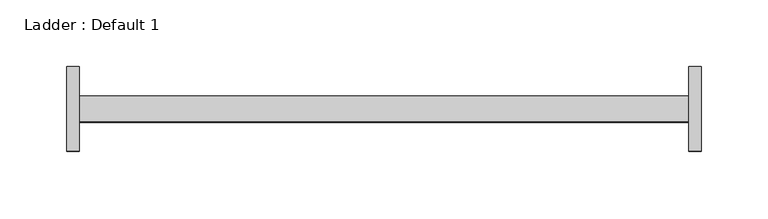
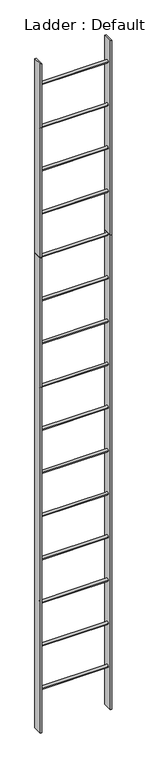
"""IFC4 building model written with IfcOpenShell, lengths in millimetres: proxy geometry, Ladder : Default 1."""

import ifcopenshell
import ifcopenshell.guid

model = None  # the IFC model being written
_history = None  # IfcOwnerHistory: only IFC2X3 demands one
_inside = {}  # id of a spatial element -> (the spatial element, [elements in it])
_under = {}  # id of a project, library or spatial element -> (it, [spatial elements below it])
_declared = {}  # id of a project -> (the project, [libraries it declares])
_typed = {}  # id of a type object -> (the type object, [elements of that type])
_made_of = {}  # id of a material, layer set ... -> (it, [elements and type objects made of it])


def new_model(schema):
    """Start an empty IFC model of exactly this schema.

    Asked for "IFC4X3", IfcOpenShell would pick the latest addendum, in which some entities
    have other attributes; the version numbers below select the first issue.
    IFC2X3 requires an IfcOwnerHistory on every rooted entity: one is made here for all.
    """
    global model, _history
    if schema == "IFC4X3":
        model = ifcopenshell.file(schema_version=(4, 3, 0, 0))
    else:
        model = ifcopenshell.file(schema=schema)
    _inside.clear()
    _under.clear()
    _declared.clear()
    _typed.clear()
    _made_of.clear()
    _history = None
    if model.schema == "IFC2X3":
        org = make("IfcOrganization", Name="unknown")
        user = make(
            "IfcPersonAndOrganization",
            ThePerson=make("IfcPerson", FamilyName="unknown"),
            TheOrganization=org,
        )
        app = make(
            "IfcApplication",
            ApplicationDeveloper=org,
            Version="unknown",
            ApplicationFullName="unknown",
            ApplicationIdentifier="unknown",
        )
        _history = make(
            "IfcOwnerHistory",
            OwningUser=user,
            OwningApplication=app,
            ChangeAction="ADDED",
            CreationDate=0,
        )
    return model


def make(cls, **values):
    """One entity of the class cls with the attributes given. An attribute that is None is left unset."""
    return model.create_entity(
        cls, **{name: value for name, value in values.items() if value is not None}
    )


def rooted(cls, **values):
    """An entity with a GlobalId (a new one), such as an element, a storey or a relation."""
    return make(cls, GlobalId=ifcopenshell.guid.new(), OwnerHistory=_history, **values)


def si_unit(unit_type, name, prefix=None):
    """IfcSIUnit, for example si_unit("LENGTHUNIT", "METRE", prefix="MILLI")."""
    return make("IfcSIUnit", UnitType=unit_type, Prefix=prefix, Name=name)


def assignment(units):
    """IfcUnitAssignment: the units of a project."""
    return None if units is None else make("IfcUnitAssignment", Units=units)


def point(xyz):
    """IfcCartesianPoint."""
    return None if xyz is None else make("IfcCartesianPoint", Coordinates=xyz)


def direction(xyz):
    """IfcDirection."""
    return None if xyz is None else make("IfcDirection", DirectionRatios=xyz)


def frame(location, z_axis=None, x_axis=None):
    """IfcAxis2Placement3D, a coordinate frame: its origin and axes. An axis left out is left unset."""
    return make(
        "IfcAxis2Placement3D",
        Location=point(location),
        Axis=direction(z_axis),
        RefDirection=direction(x_axis),
    )


def frame_2d(location, x_axis=None):
    """IfcAxis2Placement2D, a coordinate frame in the plane: its origin and x axis."""
    return make(
        "IfcAxis2Placement2D", Location=point(location), RefDirection=direction(x_axis)
    )


def origin():
    """The frame at (0, 0, 0) with its axes left unset."""
    return frame((0.0, 0.0, 0.0))


def origin_with_axes():
    """The frame at (0, 0, 0) with the z axis (0, 0, 1) and the x axis (1, 0, 0) written out."""
    return frame((0.0, 0.0, 0.0), z_axis=(0.0, 0.0, 1.0), x_axis=(1.0, 0.0, 0.0))


def place(relative_to, where):
    """IfcLocalPlacement: puts the frame where relative to a parent placement (None: the world)."""
    return make(
        "IfcLocalPlacement", PlacementRelTo=relative_to, RelativePlacement=where
    )


def context(
    kind, dimensions, precision=None, world=None, true_north=None, identifier=None
):
    """IfcGeometricRepresentationContext, for example the 3D "Model" context."""
    return make(
        "IfcGeometricRepresentationContext",
        ContextIdentifier=identifier,
        ContextType=kind,
        CoordinateSpaceDimension=dimensions,
        Precision=precision,
        WorldCoordinateSystem=world,
        TrueNorth=true_north,
    )


def project(units=None, contexts=None):
    """IfcProject with its units and contexts."""
    return rooted(
        "IfcProject",
        Name="project",
        RepresentationContexts=contexts,
        UnitsInContext=assignment(units),
    )


def spatial(cls, under=None, at=None, **own):
    """A site, building, storey or space (cls), placed at a placement, below another one or the project."""
    s = rooted(cls, ObjectPlacement=at, **own)
    if under is not None:
        _under.setdefault(under.id(), (under, []))[1].append(s)
    return s


def polyline(points):
    """IfcPolyline through the points."""
    return make("IfcPolyline", Points=[point(p) for p in points])


def circle_curve(where, radius):
    """IfcCircle in the frame where."""
    return make("IfcCircle", Position=where, Radius=radius)


def trimmed(basis, trim1, trim2, sense, master):
    """IfcTrimmedCurve: the piece of a basis curve between two trims."""
    return make(
        "IfcTrimmedCurve",
        BasisCurve=basis,
        Trim1=trim1,
        Trim2=trim2,
        SenseAgreement=sense,
        MasterRepresentation=master,
    )


def segment(curve, same_sense, transition):
    """IfcCompositeCurveSegment."""
    return make(
        "IfcCompositeCurveSegment",
        Transition=transition,
        SameSense=same_sense,
        ParentCurve=curve,
    )


def composite_curve(segments, self_intersect=None):
    """IfcCompositeCurve: segments joined end to end."""
    return make("IfcCompositeCurve", Segments=segments, SelfIntersect=self_intersect)


def outline(outer, holes=None, kind="AREA"):
    """IfcArbitraryClosedProfileDef: a profile drawn as a closed curve; with holes, ...WithVoids."""
    if holes is None:
        return make("IfcArbitraryClosedProfileDef", ProfileType=kind, OuterCurve=outer)
    return make(
        "IfcArbitraryProfileDefWithVoids",
        ProfileType=kind,
        OuterCurve=outer,
        InnerCurves=holes,
    )


def extrude(swept, where, along, depth):
    """IfcExtrudedAreaSolid: the profile swept, set in the frame where, extruded along a direction by depth."""
    return make(
        "IfcExtrudedAreaSolid",
        SweptArea=swept,
        Position=where,
        ExtrudedDirection=direction(along),
        Depth=depth,
    )


def shape(context_of_items, identifier, shape_type, items):
    """IfcShapeRepresentation: the items that make up one representation, for example the "Body"."""
    return make(
        "IfcShapeRepresentation",
        ContextOfItems=context_of_items,
        RepresentationIdentifier=identifier,
        RepresentationType=shape_type,
        Items=items,
    )


def source(mapping_origin, context_of_items, identifier, shape_type, items):
    """IfcRepresentationMap: a shape defined once, which mapped items show again and again."""
    return make(
        "IfcRepresentationMap",
        MappingOrigin=mapping_origin,
        MappedRepresentation=shape(context_of_items, identifier, shape_type, items),
    )


def transform(
    local_origin,
    x_axis=None,
    y_axis=None,
    z_axis=None,
    scale=None,
    scale2=None,
    scale3=None,
    uniform=True,
):
    """IfcCartesianTransformationOperator3D, or its non-uniform kind. x_axis, y_axis, z_axis: its Axis1, 2, 3."""
    if uniform:
        return make(
            "IfcCartesianTransformationOperator3D",
            Axis1=direction(x_axis),
            Axis2=direction(y_axis),
            LocalOrigin=point(local_origin),
            Scale=scale,
            Axis3=direction(z_axis),
        )
    return make(
        "IfcCartesianTransformationOperator3DnonUniform",
        Axis1=direction(x_axis),
        Axis2=direction(y_axis),
        LocalOrigin=point(local_origin),
        Scale=scale,
        Axis3=direction(z_axis),
        Scale2=scale2,
        Scale3=scale3,
    )


def mapped(mapping_source, mapping_target):
    """IfcMappedItem: shows the shape of a source again, moved by a transform."""
    return make(
        "IfcMappedItem", MappingSource=mapping_source, MappingTarget=mapping_target
    )


def made_of(thing, what):
    """Note that an element or type object is made of a material, layer set ...; save() writes the relation."""
    if what is not None:
        _made_of.setdefault(what.id(), (what, []))[1].append(thing)
    return thing


def element(
    cls,
    number,
    at=None,
    inside=None,
    cuts=None,
    type_object=None,
    material=None,
    context=None,
    identifier="Body",
    shape_type=None,
    held_by="IfcProductDefinitionShape",
    body=None,
    shapes=None,
    **own,
):
    """One element of the class cls, such as IfcWall. Its Tag is "e" and its number.

    at: its placement. inside: the storey or other place that contains it. cuts: it is an
    opening in that element (IfcRelVoidsElement). A single representation is given by context,
    identifier, shape_type and body (its items); several are given by shapes. held_by: the class
    of the entity that holds the representations. save() writes the other relations.
    """
    e = rooted(cls, Tag="e%d" % number, ObjectPlacement=at, **own)
    if body is not None:
        shapes = [shape(context, identifier, shape_type, body)]
    if shapes is not None:
        e.Representation = make(held_by, Representations=shapes)
    if inside is not None:
        _inside.setdefault(inside.id(), (inside, []))[1].append(e)
    if cuts is not None:
        rooted(
            "IfcRelVoidsElement", RelatingBuildingElement=cuts, RelatedOpeningElement=e
        )
    if type_object is not None:
        _typed.setdefault(type_object.id(), (type_object, []))[1].append(e)
    return made_of(e, material)


def aggregate(whole, parts):
    """IfcRelAggregates: a whole, such as a stair, and the parts it consists of."""
    return rooted("IfcRelAggregates", RelatingObject=whole, RelatedObjects=parts)


def save(model, path):
    """Write the relations noted so far, then the file.

    IfcRelAggregates (storeys below a building ...), IfcRelContainedInSpatialStructure (elements
    in a storey), IfcRelDefinesByType, IfcRelAssociatesMaterial and IfcRelDeclares: one each for
    every whole, place, type object, material and project.
    """
    for whole, parts in _under.values():
        aggregate(whole, parts)
    for where, things in _inside.values():
        rooted(
            "IfcRelContainedInSpatialStructure",
            RelatedElements=things,
            RelatingStructure=where,
        )
    for kind, things in _typed.values():
        rooted("IfcRelDefinesByType", RelatedObjects=things, RelatingType=kind)
    for what, things in _made_of.values():
        rooted("IfcRelAssociatesMaterial", RelatedObjects=things, RelatingMaterial=what)
    for by, libraries in _declared.values():
        rooted("IfcRelDeclares", RelatingContext=by, RelatedDefinitions=libraries)
    model.write(path)


def ladder_default_1_465773f7(model_context):
    return source(origin(), model_context, "Body", "SweptSolid", [
        extrude(outline(composite_curve([segment(trimmed(circle_curve(frame_2d((0.0, -3060.7)), 9.525), [point((-9.525, -3060.7))], [point((9.525, -3060.7))], False, "CARTESIAN"), True, "CONTINUOUS"), segment(trimmed(circle_curve(frame_2d((0.0, -3060.7)), 9.525), [point((9.525, -3060.7))], [point((-9.525, -3060.7))], False, "CARTESIAN"), True, "CONTINUOUS")], self_intersect=False)), frame((-228.6, 0.0, 0.0), z_axis=(1.0, 0.0, 0.0), x_axis=(0.0, 1.0, 0.0)), (0.0, 0.0, 1.0), 457.2),
        extrude(outline(composite_curve([segment(trimmed(circle_curve(frame_2d((0.0, -2755.9)), 9.525), [point((-9.525, -2755.9))], [point((9.525, -2755.9))], False, "CARTESIAN"), True, "CONTINUOUS"), segment(trimmed(circle_curve(frame_2d((0.0, -2755.9)), 9.525), [point((9.525, -2755.9))], [point((-9.525, -2755.9))], False, "CARTESIAN"), True, "CONTINUOUS")], self_intersect=False)), frame((-228.6, 0.0, 0.0), z_axis=(1.0, 0.0, 0.0), x_axis=(0.0, 1.0, 0.0)), (0.0, 0.0, 1.0), 457.2),
        extrude(outline(composite_curve([segment(trimmed(circle_curve(frame_2d((0.0, -2451.1)), 9.525), [point((-9.525, -2451.1))], [point((9.525, -2451.1))], False, "CARTESIAN"), True, "CONTINUOUS"), segment(trimmed(circle_curve(frame_2d((0.0, -2451.1)), 9.525), [point((9.525, -2451.1))], [point((-9.525, -2451.1))], False, "CARTESIAN"), True, "CONTINUOUS")], self_intersect=False)), frame((-228.6, 0.0, 0.0), z_axis=(1.0, 0.0, 0.0), x_axis=(0.0, 1.0, 0.0)), (0.0, 0.0, 1.0), 457.2),
        extrude(outline(composite_curve([segment(trimmed(circle_curve(frame_2d((0.0, -2146.3)), 9.525), [point((-9.525, -2146.3))], [point((9.525, -2146.3))], False, "CARTESIAN"), True, "CONTINUOUS"), segment(trimmed(circle_curve(frame_2d((0.0, -2146.3)), 9.525), [point((9.525, -2146.3))], [point((-9.525, -2146.3))], False, "CARTESIAN"), True, "CONTINUOUS")], self_intersect=False)), frame((-228.6, 0.0, 0.0), z_axis=(1.0, 0.0, 0.0), x_axis=(0.0, 1.0, 0.0)), (0.0, 0.0, 1.0), 457.2),
        extrude(outline(composite_curve([segment(trimmed(circle_curve(frame_2d((0.0, -1841.5)), 9.525), [point((-9.525, -1841.5))], [point((9.525, -1841.5))], False, "CARTESIAN"), True, "CONTINUOUS"), segment(trimmed(circle_curve(frame_2d((0.0, -1841.5)), 9.525), [point((9.525, -1841.5))], [point((-9.525, -1841.5))], False, "CARTESIAN"), True, "CONTINUOUS")], self_intersect=False)), frame((-228.6, 0.0, 0.0), z_axis=(1.0, 0.0, 0.0), x_axis=(0.0, 1.0, 0.0)), (0.0, 0.0, 1.0), 457.2),
        extrude(outline(composite_curve([segment(trimmed(circle_curve(frame_2d((0.0, -9.525)), 9.525), [point((-9.525, -9.525))], [point((9.525, -9.525))], False, "CARTESIAN"), True, "CONTINUOUS"), segment(trimmed(circle_curve(frame_2d((0.0, -9.525)), 9.525), [point((9.525, -9.525))], [point((-9.525, -9.525))], False, "CARTESIAN"), True, "CONTINUOUS")], self_intersect=False)), frame((-228.6, 0.0, 0.0), z_axis=(1.0, 0.0, 0.0), x_axis=(0.0, 1.0, 0.0)), (0.0, 0.0, 1.0), 457.2),
        extrude(outline(polyline([(-228.6, 31.75), (-228.6, -31.75), (-238.125, -31.75), (-238.125, 31.75), (-228.6, 31.75)])), origin_with_axes(), (0.0, 0.0, 1.0), 1371.6),
        extrude(outline(polyline([(228.6, 31.75), (238.125, 31.75), (238.125, -31.75), (228.6, -31.75), (228.6, 31.75)])), origin_with_axes(), (0.0, 0.0, 1.0), 1371.6),
        extrude(outline(composite_curve([segment(trimmed(circle_curve(frame_2d((0.0, -1536.7)), 9.525), [point((-9.525, -1536.7))], [point((9.525, -1536.7))], False, "CARTESIAN"), True, "CONTINUOUS"), segment(trimmed(circle_curve(frame_2d((0.0, -1536.7)), 9.525), [point((9.525, -1536.7))], [point((-9.525, -1536.7))], False, "CARTESIAN"), True, "CONTINUOUS")], self_intersect=False)), frame((-228.6, 0.0, 0.0), z_axis=(1.0, 0.0, 0.0), x_axis=(0.0, 1.0, 0.0)), (0.0, 0.0, 1.0), 457.2),
        extrude(outline(composite_curve([segment(trimmed(circle_curve(frame_2d((0.0, -1231.9)), 9.525), [point((-9.525, -1231.9))], [point((9.525, -1231.9))], False, "CARTESIAN"), True, "CONTINUOUS"), segment(trimmed(circle_curve(frame_2d((0.0, -1231.9)), 9.525), [point((9.525, -1231.9))], [point((-9.525, -1231.9))], False, "CARTESIAN"), True, "CONTINUOUS")], self_intersect=False)), frame((-228.6, 0.0, 0.0), z_axis=(1.0, 0.0, 0.0), x_axis=(0.0, 1.0, 0.0)), (0.0, 0.0, 1.0), 457.2),
        extrude(outline(composite_curve([segment(trimmed(circle_curve(frame_2d((0.0, -927.1)), 9.525), [point((-9.525, -927.1))], [point((9.525, -927.1))], False, "CARTESIAN"), True, "CONTINUOUS"), segment(trimmed(circle_curve(frame_2d((0.0, -927.1)), 9.525), [point((9.525, -927.1))], [point((-9.525, -927.1))], False, "CARTESIAN"), True, "CONTINUOUS")], self_intersect=False)), frame((-228.6, 0.0, 0.0), z_axis=(1.0, 0.0, 0.0), x_axis=(0.0, 1.0, 0.0)), (0.0, 0.0, 1.0), 457.2),
        extrude(outline(composite_curve([segment(trimmed(circle_curve(frame_2d((0.0, -622.3)), 9.525), [point((-9.525, -622.3))], [point((9.525, -622.3))], False, "CARTESIAN"), True, "CONTINUOUS"), segment(trimmed(circle_curve(frame_2d((0.0, -622.3)), 9.525), [point((9.525, -622.3))], [point((-9.525, -622.3))], False, "CARTESIAN"), True, "CONTINUOUS")], self_intersect=False)), frame((-228.6, 0.0, 0.0), z_axis=(1.0, 0.0, 0.0), x_axis=(0.0, 1.0, 0.0)), (0.0, 0.0, 1.0), 457.2),
        extrude(outline(composite_curve([segment(trimmed(circle_curve(frame_2d((0.0, -317.5)), 9.525), [point((-9.525, -317.5))], [point((9.525, -317.5))], False, "CARTESIAN"), True, "CONTINUOUS"), segment(trimmed(circle_curve(frame_2d((0.0, -317.5)), 9.525), [point((9.525, -317.5))], [point((-9.525, -317.5))], False, "CARTESIAN"), True, "CONTINUOUS")], self_intersect=False)), frame((-228.6, 0.0, 0.0), z_axis=(1.0, 0.0, 0.0), x_axis=(0.0, 1.0, 0.0)), (0.0, 0.0, 1.0), 457.2),
        extrude(outline(composite_curve([segment(trimmed(circle_curve(frame_2d((0.0, 295.275)), 9.525), [point((-9.525, 295.275))], [point((9.525, 295.275))], False, "CARTESIAN"), True, "CONTINUOUS"), segment(trimmed(circle_curve(frame_2d((0.0, 295.275)), 9.525), [point((9.525, 295.275))], [point((-9.525, 295.275))], False, "CARTESIAN"), True, "CONTINUOUS")], self_intersect=False)), frame((-228.6, 0.0, 0.0), z_axis=(1.0, 0.0, 0.0), x_axis=(0.0, 1.0, 0.0)), (0.0, 0.0, 1.0), 457.2),
        extrude(outline(composite_curve([segment(trimmed(circle_curve(frame_2d((0.0, 600.075)), 9.525), [point((-9.525, 600.075))], [point((9.525, 600.075))], False, "CARTESIAN"), True, "CONTINUOUS"), segment(trimmed(circle_curve(frame_2d((0.0, 600.075)), 9.525), [point((9.525, 600.075))], [point((-9.525, 600.075))], False, "CARTESIAN"), True, "CONTINUOUS")], self_intersect=False)), frame((-228.6, 0.0, 0.0), z_axis=(1.0, 0.0, 0.0), x_axis=(0.0, 1.0, 0.0)), (0.0, 0.0, 1.0), 457.2),
        extrude(outline(composite_curve([segment(trimmed(circle_curve(frame_2d((0.0, 904.875)), 9.525), [point((-9.525, 904.875))], [point((9.525, 904.875))], False, "CARTESIAN"), True, "CONTINUOUS"), segment(trimmed(circle_curve(frame_2d((0.0, 904.875)), 9.525), [point((9.525, 904.875))], [point((-9.525, 904.875))], False, "CARTESIAN"), True, "CONTINUOUS")], self_intersect=False)), frame((-228.6, 0.0, 0.0), z_axis=(1.0, 0.0, 0.0), x_axis=(0.0, 1.0, 0.0)), (0.0, 0.0, 1.0), 457.2),
        extrude(outline(composite_curve([segment(trimmed(circle_curve(frame_2d((0.0, 1209.675)), 9.525), [point((-9.525, 1209.675))], [point((9.525, 1209.675))], False, "CARTESIAN"), True, "CONTINUOUS"), segment(trimmed(circle_curve(frame_2d((0.0, 1209.675)), 9.525), [point((9.525, 1209.675))], [point((-9.525, 1209.675))], False, "CARTESIAN"), True, "CONTINUOUS")], self_intersect=False)), frame((-228.6, 0.0, 0.0), z_axis=(1.0, 0.0, 0.0), x_axis=(0.0, 1.0, 0.0)), (0.0, 0.0, 1.0), 457.2),
        extrude(outline(polyline([(-228.6, 31.75), (-228.6, -31.75), (-238.125, -31.75), (-238.125, 31.75), (-228.6, 31.75)])), frame((0.0, 0.0, -3352.8), z_axis=(0.0, 0.0, 1.0), x_axis=(1.0, 0.0, 0.0)), (0.0, 0.0, 1.0), 3352.8),
        extrude(outline(polyline([(228.6, 31.75), (238.125, 31.75), (238.125, -31.75), (228.6, -31.75), (228.6, 31.75)])), frame((0.0, 0.0, -3352.8), z_axis=(0.0, 0.0, 1.0), x_axis=(1.0, 0.0, 0.0)), (0.0, 0.0, 1.0), 3352.8),
    ])


if __name__ == "__main__":
    model = new_model("IFC4")
    model_context = context("Model", 3, world=origin())
    ifc_project = project(units=[si_unit("LENGTHUNIT", "METRE", prefix="MILLI")], contexts=[model_context])
    site = spatial("IfcSite", under=ifc_project)
    building = spatial("IfcBuilding", under=site)
    placement = place(None, origin())
    ladder_default_1_shape = ladder_default_1_465773f7(model_context)
    element("IfcBuildingElementProxy", 1, Name="Ladder : Default 1", ObjectType="Ladder : Default 1", at=placement, inside=building, context=model_context, shape_type="MappedRepresentation", body=[
        mapped(ladder_default_1_shape, transform((0.0, 0.0, 0.0), x_axis=(1.0, 0.0, 0.0), y_axis=(0.0, 1.0, 0.0), z_axis=(0.0, 0.0, 1.0))),
    ])
    save(model, "model.ifc")
